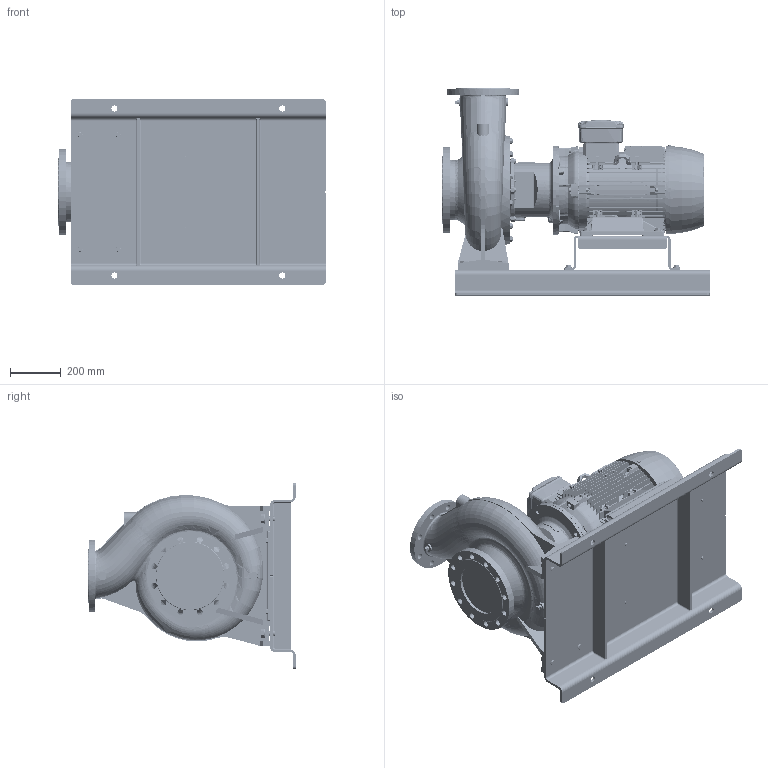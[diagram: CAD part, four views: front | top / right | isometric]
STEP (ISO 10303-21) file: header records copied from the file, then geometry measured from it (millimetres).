
FILE_DESCRIPTION (( 'STEP AP214' ), '1' );
FILE_NAME ('GSD4 150-315_22_(180ML)_W21_BP.STEP', '2026-05-08T00:58:10', ( '' ), ( '' ), 'SwSTEP 2.0', 'SolidWorks 2024', '' );
FILE_SCHEMA (( 'AUTOMOTIVE_DESIGN' ));
Length unit declared in the file: millimetre
Products named in the file (13): N9S5 GSDA-954 F1-1832968-00; 180M_L ALIE3_W21T_B35; Parametric bolt_SFT-A403B; Parametric bolt and washer_SFT-A305B; Parametric bolt_SFT-A297B; Parametric Flat Washer_M12; Parametric bolt_SFT-A305B; Parametric bolt and washer_SFT-A403B; CGS11-5265; Parametric Flat Washer_M20; GSD4 150-315_22_(180ML)_W21_BP; Parametric bolt and washer_SFT-A297B; 150-315-180M_L_ﾃﾞﾌｫﾙﾄ
Assembly tree (22 placements, depth 3):
  GSD4 150-315_22_(180ML)_W21_BP
    150-315-180M_L_ﾃﾞﾌｫﾙﾄ
    N9S5 GSDA-954 F1-1832968-00
    CGS11-5265
    Parametric bolt and washer_SFT-A403B  x4
      Parametric bolt_SFT-A403B
      Parametric Flat Washer_M20
    Parametric bolt and washer_SFT-A297B  x4
      Parametric bolt_SFT-A297B
      Parametric Flat Washer_M12
    Parametric bolt and washer_SFT-A305B  x4
      Parametric bolt_SFT-A305B
      Parametric Flat Washer_M12
    180M_L ALIE3_W21T_B35
Bounding box: 1050 x 815 x 730 mm (x, y, z)
Volume: 60906232.1 mm3; surface area: 6708494.4 mm2
Topology: 52 solids, 53 shells, 6797 faces, 17675 edges, 11446 vertices
Faces by surface type: plane 3934, cylinder 1419, cone 676, bspline 473, torus 279, sphere 16
Entity records: 253954 total; most frequent: CARTESIAN_POINT 107886, ORIENTED_EDGE 32238, DIRECTION 27050, EDGE_CURVE 16119, VERTEX_POINT 10441, LINE 9976, VECTOR 9976, AXIS2_PLACEMENT_3D 8537
